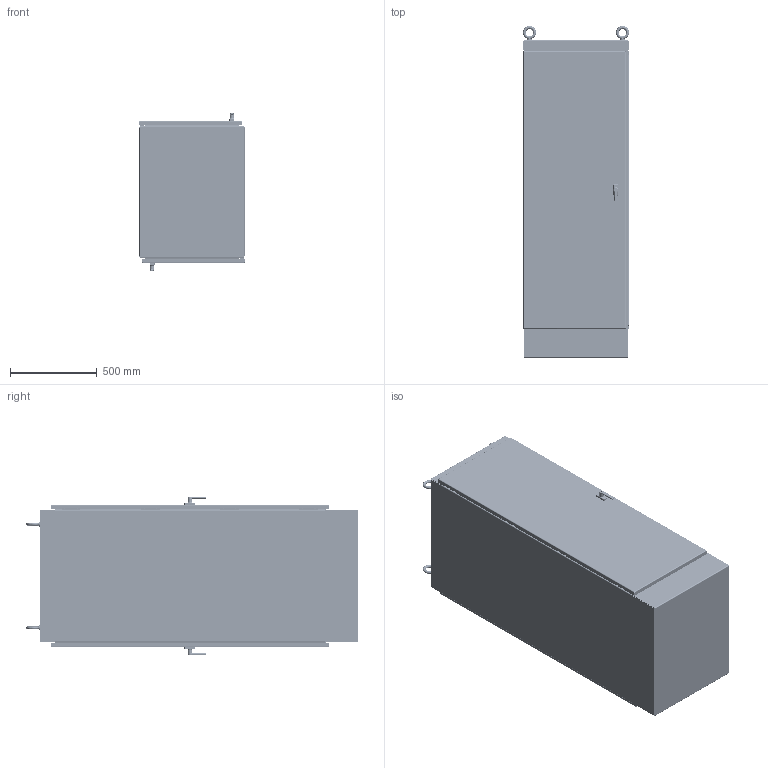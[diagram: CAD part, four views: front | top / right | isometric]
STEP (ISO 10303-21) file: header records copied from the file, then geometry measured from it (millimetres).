
FILE_DESCRIPTION (( 'STEP AP203' ), '1' );
FILE_NAME ('a722430fsdag.STEP', '2012-11-26T18:00:54', ( 'User' ), ( 'Pentair Inc' ), 'SwSTEP 2.0', 'SolidWorks 2010', '' );
FILE_SCHEMA (( 'CONFIG_CONTROL_DESIGN' ));
Products named in the file (45): a722430fsdag; 89089897; 89089831; 89089768; 89089845; 89089782; 10237005_10237005; 89089815; 89089752; 11258875_11258875; 89085500; 87932883; 26108002; 99415273_Hex Nut; 89085489; 87790201_87790201; 60127135_Installed postion; 60127199_60127199; 89085847; 60127137; 89089725_DOOR CLOSED; 89089718; 89089711; 99404177_Config-Drawing; 99401225_Config-Drawing; 89085464_60127101; 24110001; 22108006; 22318001; 23418001; 87956539; 26120009; 26384001; 26384101_SL-THMS 0.19-32x0.375x0.375-C; 26123007_26123007 ; 22101005; 99401515; 26274015_26274015; 26273015_26273015; 30101003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
Assembly tree (89 placements, depth 4):
  a722430fsdag
    89089897
      89089845  x2
        89089782
        10237005_10237005
      87932883  x4
      99415273_Hex Nut  x4
      89089831
        89089768
        99404177_Config-Drawing  x2
      89089815
        89089752
        11258875_11258875
      89085500  x4
      26108002  x4
    60127137  x8
    89085489  x8
      60127135_Installed postion
      87790201_87790201
      89085847
      60127199_60127199
    89089725_DOOR CLOSED  x2
      26384001
      89089718
        89089711
        24110001  x2
        89085464_60127101  x4
        99401225_Config-Drawing  x2
        99404177_Config-Drawing
      26120009
      26274015_26274015
        27115001
        30101003  x2
        26273015_26273015
        22318002
      99401515
      87956539
      22101005
      26123007_26123007 
      89089732
      23418001
      26384101_SL-THMS 0.19-32x0.375x0.375-C
      87922656
      22318001
      26118002_26118002
      22108006
Bounding box: 611.57 x 1913.05 x 910.87 mm (x, y, z)
Volume: 20195497.1 mm3; surface area: 15715688.8 mm2
Topology: 161 solids, 161 shells, 9546 faces, 23136 edges, 14000 vertices
Faces by surface type: plane 4714, cylinder 2700, bspline 1056, cone 464, torus 456, sphere 156
Entity records: 101160 total; most frequent: CARTESIAN_POINT 36046, ORIENTED_EDGE 12760, DIRECTION 11351, EDGE_CURVE 6380, VERTEX_POINT 3959, VECTOR 3833, LINE 3833, AXIS2_PLACEMENT_3D 3759
